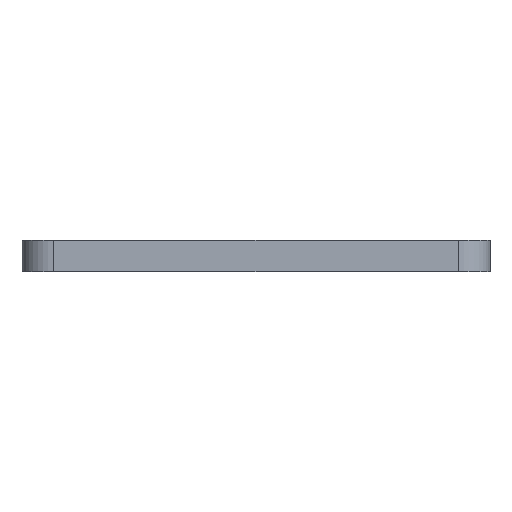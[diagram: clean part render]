
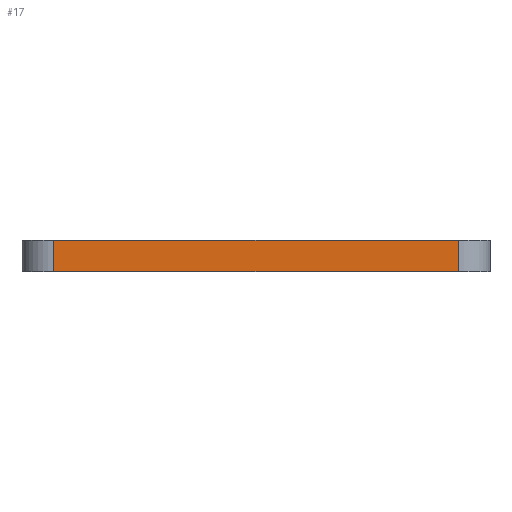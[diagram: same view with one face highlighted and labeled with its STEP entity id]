
A CAD part, front view. The second image highlights one B-rep face of the part: STEP entity #17.
In plain terms, the highlighted planar face has unit normal (0, -1, 0).
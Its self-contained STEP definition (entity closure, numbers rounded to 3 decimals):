
#17 = ADVANCED_FACE('',(#18),#32,.F.);
#18 = FACE_BOUND('',#19,.F.);
#19 = EDGE_LOOP('',(#20,#55,#83,#111));
#20 = ORIENTED_EDGE('',*,*,#21,.F.);
#21 = EDGE_CURVE('',#22,#24,#26,.T.);
#22 = VERTEX_POINT('',#23);
#23 = CARTESIAN_POINT('',(-19.,-22.,0.));
#24 = VERTEX_POINT('',#25);
#25 = CARTESIAN_POINT('',(19.,-22.,0.));
#26 = SURFACE_CURVE('',#27,(#31,#43),.PCURVE_S1.);
#27 = LINE('',#28,#29);
#28 = CARTESIAN_POINT('',(-22.,-22.,0.));
#29 = VECTOR('',#30,1.);
#30 = DIRECTION('',(1.,0.,0.));
#31 = PCURVE('',#32,#37);
#32 = PLANE('',#33);
#33 = AXIS2_PLACEMENT_3D('',#34,#35,#36);
#34 = CARTESIAN_POINT('',(-22.,-22.,0.));
#35 = DIRECTION('',(0.,1.,0.));
#36 = DIRECTION('',(1.,0.,0.));
#37 = DEFINITIONAL_REPRESENTATION('',(#38),#42);
#38 = LINE('',#39,#40);
#39 = CARTESIAN_POINT('',(0.,0.));
#40 = VECTOR('',#41,1.);
#41 = DIRECTION('',(1.,0.));
#42 = ( GEOMETRIC_REPRESENTATION_CONTEXT(2) 
PARAMETRIC_REPRESENTATION_CONTEXT() REPRESENTATION_CONTEXT('2D SPACE',''
  ) );
#43 = PCURVE('',#44,#49);
#44 = PLANE('',#45);
#45 = AXIS2_PLACEMENT_3D('',#46,#47,#48);
#46 = CARTESIAN_POINT('',(0.,0.,0.));
#47 = DIRECTION('',(0.,0.,1.));
#48 = DIRECTION('',(1.,0.,-0.));
#49 = DEFINITIONAL_REPRESENTATION('',(#50),#54);
#50 = LINE('',#51,#52);
#51 = CARTESIAN_POINT('',(-22.,-22.));
#52 = VECTOR('',#53,1.);
#53 = DIRECTION('',(1.,0.));
#54 = ( GEOMETRIC_REPRESENTATION_CONTEXT(2) 
PARAMETRIC_REPRESENTATION_CONTEXT() REPRESENTATION_CONTEXT('2D SPACE',''
  ) );
#55 = ORIENTED_EDGE('',*,*,#56,.T.);
#56 = EDGE_CURVE('',#22,#57,#59,.T.);
#57 = VERTEX_POINT('',#58);
#58 = CARTESIAN_POINT('',(-19.,-22.,3.));
#59 = SURFACE_CURVE('',#60,(#64,#71),.PCURVE_S1.);
#60 = LINE('',#61,#62);
#61 = CARTESIAN_POINT('',(-19.,-22.,0.));
#62 = VECTOR('',#63,1.);
#63 = DIRECTION('',(0.,0.,1.));
#64 = PCURVE('',#32,#65);
#65 = DEFINITIONAL_REPRESENTATION('',(#66),#70);
#66 = LINE('',#67,#68);
#67 = CARTESIAN_POINT('',(3.,0.));
#68 = VECTOR('',#69,1.);
#69 = DIRECTION('',(0.,-1.));
#70 = ( GEOMETRIC_REPRESENTATION_CONTEXT(2) 
PARAMETRIC_REPRESENTATION_CONTEXT() REPRESENTATION_CONTEXT('2D SPACE',''
  ) );
#71 = PCURVE('',#72,#77);
#72 = CYLINDRICAL_SURFACE('',#73,3.);
#73 = AXIS2_PLACEMENT_3D('',#74,#75,#76);
#74 = CARTESIAN_POINT('',(-19.,-19.,0.));
#75 = DIRECTION('',(0.,0.,1.));
#76 = DIRECTION('',(0.,-1.,0.));
#77 = DEFINITIONAL_REPRESENTATION('',(#78),#82);
#78 = LINE('',#79,#80);
#79 = CARTESIAN_POINT('',(-0.,0.));
#80 = VECTOR('',#81,1.);
#81 = DIRECTION('',(-0.,1.));
#82 = ( GEOMETRIC_REPRESENTATION_CONTEXT(2) 
PARAMETRIC_REPRESENTATION_CONTEXT() REPRESENTATION_CONTEXT('2D SPACE',''
  ) );
#83 = ORIENTED_EDGE('',*,*,#84,.T.);
#84 = EDGE_CURVE('',#57,#85,#87,.T.);
#85 = VERTEX_POINT('',#86);
#86 = CARTESIAN_POINT('',(19.,-22.,3.));
#87 = SURFACE_CURVE('',#88,(#92,#99),.PCURVE_S1.);
#88 = LINE('',#89,#90);
#89 = CARTESIAN_POINT('',(-22.,-22.,3.));
#90 = VECTOR('',#91,1.);
#91 = DIRECTION('',(1.,0.,0.));
#92 = PCURVE('',#32,#93);
#93 = DEFINITIONAL_REPRESENTATION('',(#94),#98);
#94 = LINE('',#95,#96);
#95 = CARTESIAN_POINT('',(0.,-3.));
#96 = VECTOR('',#97,1.);
#97 = DIRECTION('',(1.,0.));
#98 = ( GEOMETRIC_REPRESENTATION_CONTEXT(2) 
PARAMETRIC_REPRESENTATION_CONTEXT() REPRESENTATION_CONTEXT('2D SPACE',''
  ) );
#99 = PCURVE('',#100,#105);
#100 = PLANE('',#101);
#101 = AXIS2_PLACEMENT_3D('',#102,#103,#104);
#102 = CARTESIAN_POINT('',(0.,0.,3.));
#103 = DIRECTION('',(0.,0.,1.));
#104 = DIRECTION('',(1.,0.,-0.));
#105 = DEFINITIONAL_REPRESENTATION('',(#106),#110);
#106 = LINE('',#107,#108);
#107 = CARTESIAN_POINT('',(-22.,-22.));
#108 = VECTOR('',#109,1.);
#109 = DIRECTION('',(1.,0.));
#110 = ( GEOMETRIC_REPRESENTATION_CONTEXT(2) 
PARAMETRIC_REPRESENTATION_CONTEXT() REPRESENTATION_CONTEXT('2D SPACE',''
  ) );
#111 = ORIENTED_EDGE('',*,*,#112,.F.);
#112 = EDGE_CURVE('',#24,#85,#113,.T.);
#113 = SURFACE_CURVE('',#114,(#118,#125),.PCURVE_S1.);
#114 = LINE('',#115,#116);
#115 = CARTESIAN_POINT('',(19.,-22.,0.));
#116 = VECTOR('',#117,1.);
#117 = DIRECTION('',(0.,0.,1.));
#118 = PCURVE('',#32,#119);
#119 = DEFINITIONAL_REPRESENTATION('',(#120),#124);
#120 = LINE('',#121,#122);
#121 = CARTESIAN_POINT('',(41.,0.));
#122 = VECTOR('',#123,1.);
#123 = DIRECTION('',(0.,-1.));
#124 = ( GEOMETRIC_REPRESENTATION_CONTEXT(2) 
PARAMETRIC_REPRESENTATION_CONTEXT() REPRESENTATION_CONTEXT('2D SPACE',''
  ) );
#125 = PCURVE('',#126,#131);
#126 = CYLINDRICAL_SURFACE('',#127,3.);
#127 = AXIS2_PLACEMENT_3D('',#128,#129,#130);
#128 = CARTESIAN_POINT('',(19.,-19.,0.));
#129 = DIRECTION('',(0.,0.,1.));
#130 = DIRECTION('',(0.,-1.,0.));
#131 = DEFINITIONAL_REPRESENTATION('',(#132),#136);
#132 = LINE('',#133,#134);
#133 = CARTESIAN_POINT('',(0.,0.));
#134 = VECTOR('',#135,1.);
#135 = DIRECTION('',(0.,1.));
#136 = ( GEOMETRIC_REPRESENTATION_CONTEXT(2) 
PARAMETRIC_REPRESENTATION_CONTEXT() REPRESENTATION_CONTEXT('2D SPACE',''
  ) );
